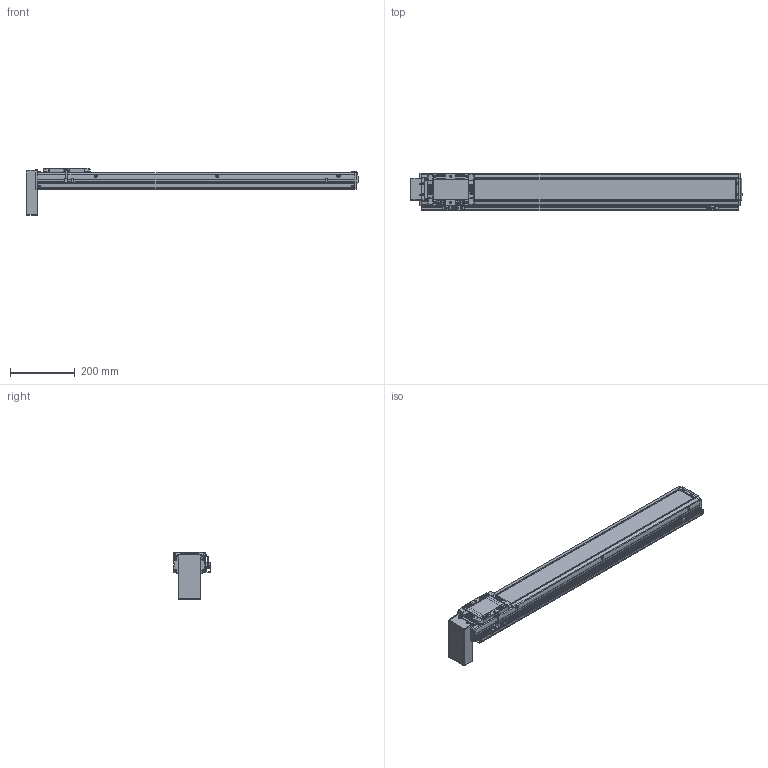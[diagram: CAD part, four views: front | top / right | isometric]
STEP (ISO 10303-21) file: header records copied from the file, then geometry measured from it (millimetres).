
FILE_DESCRIPTION(('STEP AP214'),'1');
FILE_NAME('Z:/Web/3D/SAN100/SAN100 양산용 (STEP)/SAN100ㅁㅁ-800PB+3SR.stp','2013-04-30T02:24:56',(' '),(' '),'Spatial InterOp 3D',' ',' ');
FILE_SCHEMA(('automotive_design'));
Length unit declared in the file: millimetre
Products named in the file (57): EE-SX674; SBK-SX674-352; 스크루 : Round - M3.0 x 6.0; M3.0 x 6.0; SRL-16x17-380L; SGD-SAN100; SUS COVER; SFX-SAN100; RRCV-SAN100; 스크루 : Round - M4.0 x 10.0; FRBL-SAN100; SLBL-SAN100; SLCV-SAN100; 스크루 : Countersunk - M3.0 x 6.0; BASE; 스크루 : Round - M5.0 x 6.0; BTCV-SAN100; FRCV-SAN100
Bounding box: 1026.5 x 116 x 148.36 mm (x, y, z)
Volume: 3084425.9 mm3; surface area: 803195.5 mm2
Topology: 57 solids, 62 shells, 2637 faces, 6840 edges, 4423 vertices
Faces by surface type: plane 1396, cylinder 893, cone 230, sphere 76, torus 30, bspline 12
Entity records: 103670 total; most frequent: CARTESIAN_POINT 15303, DIRECTION 14485, ORIENTED_EDGE 13484, EDGE_CURVE 6742, AXIS2_PLACEMENT_3D 5178, VERTEX_POINT 4423, LINE 4129, VECTOR 4129
